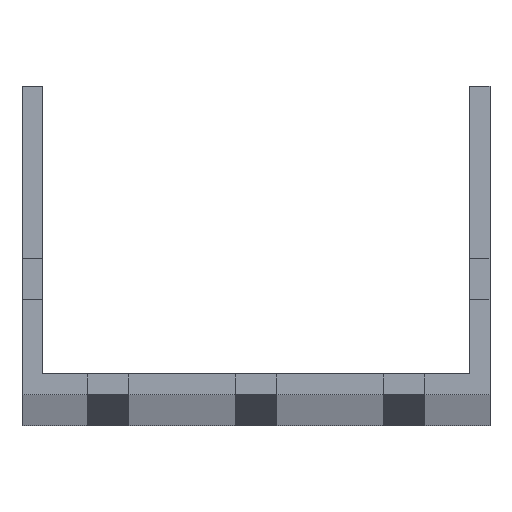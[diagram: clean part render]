
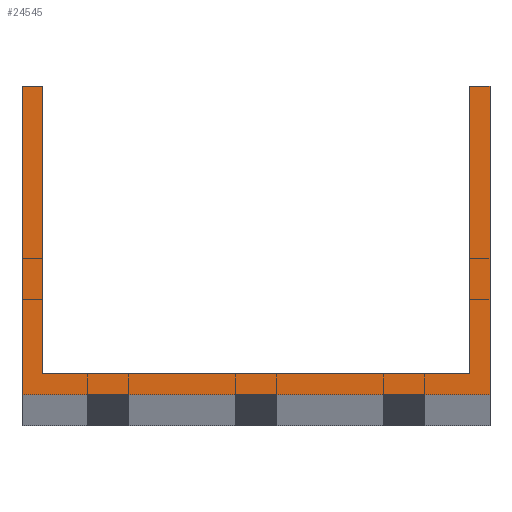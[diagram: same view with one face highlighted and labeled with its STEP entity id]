
A CAD part, top view. The second image highlights one B-rep face of the part: STEP entity #24545.
In plain terms, the highlighted planar face has unit normal (0, 0, 1).
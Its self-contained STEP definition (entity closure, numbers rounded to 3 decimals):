
#428 = ORIENTED_EDGE ( 'NONE', *, *, #19584, .T. ) ;
#468 = LINE ( 'NONE', #26369, #41454 ) ;
#728 = VERTEX_POINT ( 'NONE', #26054 ) ;
#1085 = VECTOR ( 'NONE', #25174, 1000. ) ;
#1314 = LINE ( 'NONE', #38656, #38751 ) ;
#1333 = CARTESIAN_POINT ( 'NONE',  ( 36., 3.5, 1500. ) ) ;
#1413 = ORIENTED_EDGE ( 'NONE', *, *, #26419, .T. ) ;
#2033 = DIRECTION ( 'NONE',  ( -1., 0., 0. ) ) ;
#2162 = DIRECTION ( 'NONE',  ( 1., 0., 0. ) ) ;
#4567 = VERTEX_POINT ( 'NONE', #23425 ) ;
#6763 = CARTESIAN_POINT ( 'NONE',  ( -39.5, 52., 1500. ) ) ;
#7094 = LINE ( 'NONE', #22515, #42920 ) ;
#8417 = DIRECTION ( 'NONE',  ( 0., 0., 1. ) ) ;
#8665 = FACE_OUTER_BOUND ( 'NONE', #19884, .T. ) ;
#9724 = ORIENTED_EDGE ( 'NONE', *, *, #29715, .F. ) ;
#10521 = ORIENTED_EDGE ( 'NONE', *, *, #21069, .T. ) ;
#13395 = CARTESIAN_POINT ( 'NONE',  ( -36., 52., 1500. ) ) ;
#14111 = LINE ( 'NONE', #25053, #37266 ) ;
#18187 = ORIENTED_EDGE ( 'NONE', *, *, #46914, .F. ) ;
#18985 = AXIS2_PLACEMENT_3D ( 'NONE', #41770, #8417, #23593 ) ;
#19421 = ORIENTED_EDGE ( 'NONE', *, *, #37392, .F. ) ;
#19584 = EDGE_CURVE ( 'NONE', #43598, #27045, #27481, .T. ) ;
#19884 = EDGE_LOOP ( 'NONE', ( #18187, #428, #1413, #38010, #29115, #10521, #19421, #9724 ) ) ;
#20129 = CARTESIAN_POINT ( 'NONE',  ( -36., 3.5, 1500. ) ) ;
#21069 = EDGE_CURVE ( 'NONE', #48841, #728, #40603, .T. ) ;
#22456 = VECTOR ( 'NONE', #29755, 1000. ) ;
#22515 = CARTESIAN_POINT ( 'NONE',  ( -39.5, 52., 1500. ) ) ;
#23069 = EDGE_CURVE ( 'NONE', #24171, #4567, #14111, .T. ) ;
#23425 = CARTESIAN_POINT ( 'NONE',  ( 39.5, 0., 1500. ) ) ;
#23562 = VECTOR ( 'NONE', #44628, 1000. ) ;
#23593 = DIRECTION ( 'NONE',  ( 1., 0., 0. ) ) ;
#24087 = CARTESIAN_POINT ( 'NONE',  ( 39.5, 52., 1500. ) ) ;
#24171 = VERTEX_POINT ( 'NONE', #24441 ) ;
#24441 = CARTESIAN_POINT ( 'NONE',  ( -39.5, 0., 1500. ) ) ;
#24545 = ADVANCED_FACE ( 'NONE', ( #8665 ), #30816, .T. ) ;
#25053 = CARTESIAN_POINT ( 'NONE',  ( -39.5, 0., 1500. ) ) ;
#25174 = DIRECTION ( 'NONE',  ( 0., -1., 0. ) ) ;
#26020 = CARTESIAN_POINT ( 'NONE',  ( 39.5, 52., 1500. ) ) ;
#26054 = CARTESIAN_POINT ( 'NONE',  ( 36., 52., 1500. ) ) ;
#26369 = CARTESIAN_POINT ( 'NONE',  ( -39.5, 3.5, 1500. ) ) ;
#26419 = EDGE_CURVE ( 'NONE', #27045, #24171, #7094, .T. ) ;
#27045 = VERTEX_POINT ( 'NONE', #32125 ) ;
#27481 = LINE ( 'NONE', #29439, #23562 ) ;
#28416 = CARTESIAN_POINT ( 'NONE',  ( -36., 52., 1500. ) ) ;
#29115 = ORIENTED_EDGE ( 'NONE', *, *, #45401, .T. ) ;
#29439 = CARTESIAN_POINT ( 'NONE',  ( -39.5, 52., 1500. ) ) ;
#29715 = EDGE_CURVE ( 'NONE', #40090, #34322, #468, .T. ) ;
#29755 = DIRECTION ( 'NONE',  ( 0., 1., 0. ) ) ;
#29971 = DIRECTION ( 'NONE',  ( 0., -1., 0. ) ) ;
#30816 = PLANE ( 'NONE',  #18985 ) ;
#31535 = VECTOR ( 'NONE', #2033, 1000. ) ;
#32125 = CARTESIAN_POINT ( 'NONE',  ( -39.5, 52., 1500. ) ) ;
#34322 = VERTEX_POINT ( 'NONE', #1333 ) ;
#37266 = VECTOR ( 'NONE', #2162, 1000. ) ;
#37392 = EDGE_CURVE ( 'NONE', #34322, #728, #1314, .T. ) ;
#38010 = ORIENTED_EDGE ( 'NONE', *, *, #23069, .T. ) ;
#38656 = CARTESIAN_POINT ( 'NONE',  ( 36., 52., 1500. ) ) ;
#38751 = VECTOR ( 'NONE', #42892, 1000. ) ;
#40090 = VERTEX_POINT ( 'NONE', #20129 ) ;
#40603 = LINE ( 'NONE', #6763, #31535 ) ;
#40612 = LINE ( 'NONE', #28416, #1085 ) ;
#41454 = VECTOR ( 'NONE', #41548, 1000. ) ;
#41548 = DIRECTION ( 'NONE',  ( 1., 0., 0. ) ) ;
#41770 = CARTESIAN_POINT ( 'NONE',  ( 0., 0., 1500. ) ) ;
#42892 = DIRECTION ( 'NONE',  ( 0., 1., 0. ) ) ;
#42920 = VECTOR ( 'NONE', #29971, 1000. ) ;
#43598 = VERTEX_POINT ( 'NONE', #13395 ) ;
#44628 = DIRECTION ( 'NONE',  ( -1., 0., 0. ) ) ;
#44692 = LINE ( 'NONE', #26020, #22456 ) ;
#45401 = EDGE_CURVE ( 'NONE', #4567, #48841, #44692, .T. ) ;
#46914 = EDGE_CURVE ( 'NONE', #43598, #40090, #40612, .T. ) ;
#48841 = VERTEX_POINT ( 'NONE', #24087 ) ;
